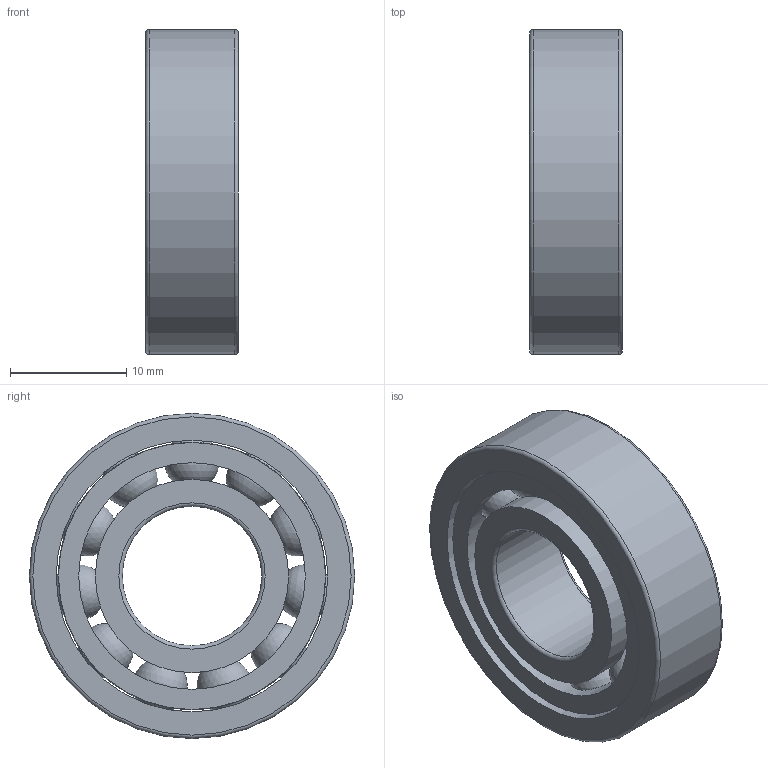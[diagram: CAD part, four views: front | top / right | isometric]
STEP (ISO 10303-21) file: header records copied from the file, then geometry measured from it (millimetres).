
FILE_DESCRIPTION(/* description */ (''),/* implementation_level */ '2;1');
FILE_NAME(/* name */ 'S_6001_TA.step',/* time_stamp */ '2013-03-06T14:43:16+01:00',/* author */ ('Marian'),/* organization */ ('GMN'),/* preprocessor_version */ 'ST-DEVELOPER v11',/* originating_system */ 'SIEMENS UGS NX 6.0',/* authorisation */ '');
FILE_SCHEMA (('CONFIG_CONTROL_DESIGN'));
Length unit declared in the file: millimetre
Products named in the file (1): S_6001_TA
Bounding box: 8 x 28 x 28 mm (x, y, z)
Volume: 3058.5 mm3; surface area: 4376.5 mm2
Topology: 14 solids, 14 shells, 42 faces, 100 edges, 64 vertices
Faces by surface type: cylinder 18, sphere 11, torus 6, plane 6, cone 1
Full cylindrical faces by diameter (mm): 4.962 x11, 12 x1, 16.65 x2, 19.512 x1, 23 x1, 23.4 x1, 28 x1
Entity records: 2192 total; most frequent: CARTESIAN_POINT 1392, DIRECTION 126, FACE_BOUND 95, EDGE_LOOP 84, ORIENTED_EDGE 84, AXIS2_PLACEMENT_3D 63, VERTEX_POINT 53, EDGE_CURVE 42
